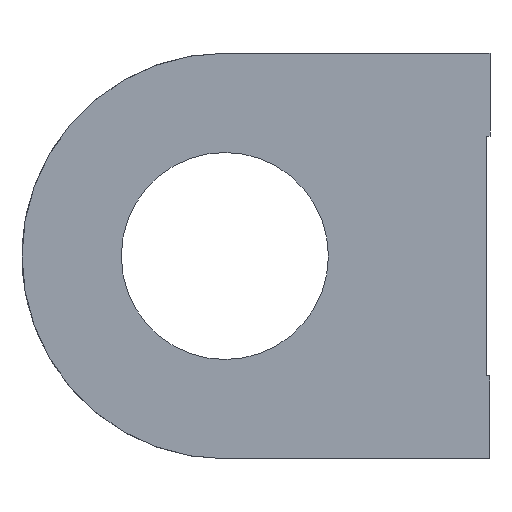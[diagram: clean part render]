
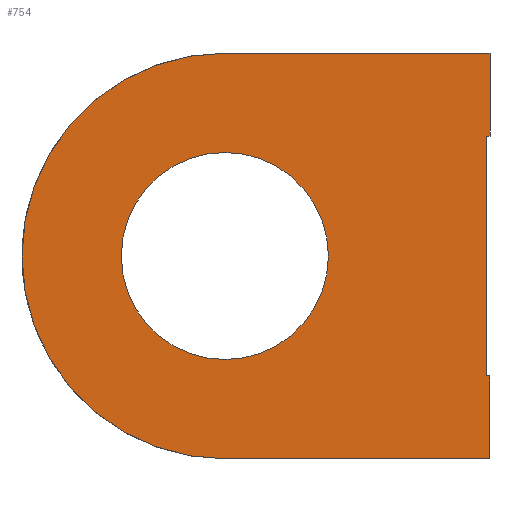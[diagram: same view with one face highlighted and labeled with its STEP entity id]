
A CAD part, front view. The second image highlights one B-rep face of the part: STEP entity #754.
In plain terms, the highlighted planar face has unit normal (0, -1, 0).
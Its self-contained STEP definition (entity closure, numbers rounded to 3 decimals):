
#45=FACE_BOUND('',#166,.T.);
#67=CIRCLE('',#811,32.131);
#68=CIRCLE('',#812,16.4);
#112=FACE_OUTER_BOUND('',#165,.T.);
#165=EDGE_LOOP('',(#547,#548,#549,#550,#551,#552,#553,#554));
#166=EDGE_LOOP('',(#555));
#227=LINE('',#1148,#285);
#233=LINE('',#1160,#291);
#235=LINE('',#1163,#293);
#240=LINE('',#1179,#298);
#241=LINE('',#1184,#299);
#244=LINE('',#1192,#302);
#245=LINE('',#1195,#303);
#285=VECTOR('',#899,0.5);
#291=VECTOR('',#907,0.5);
#293=VECTOR('',#911,38.);
#298=VECTOR('',#924,13.131);
#299=VECTOR('',#929,13.131);
#302=VECTOR('',#936,42.);
#303=VECTOR('',#939,42.);
#342=VERTEX_POINT('',#1144);
#344=VERTEX_POINT('',#1147);
#347=VERTEX_POINT('',#1154);
#349=VERTEX_POINT('',#1158);
#356=VERTEX_POINT('',#1177);
#358=VERTEX_POINT('',#1183);
#361=VERTEX_POINT('',#1191);
#362=VERTEX_POINT('',#1193);
#363=VERTEX_POINT('',#1196);
#418=EDGE_CURVE('',#344,#342,#227,.T.);
#424=EDGE_CURVE('',#347,#349,#233,.T.);
#426=EDGE_CURVE('',#349,#344,#235,.T.);
#434=EDGE_CURVE('',#342,#356,#240,.T.);
#436=EDGE_CURVE('',#358,#347,#241,.T.);
#440=EDGE_CURVE('',#356,#361,#244,.T.);
#441=EDGE_CURVE('',#361,#362,#67,.T.);
#442=EDGE_CURVE('',#362,#358,#245,.T.);
#443=EDGE_CURVE('',#363,#363,#68,.T.);
#547=ORIENTED_EDGE('',*,*,#424,.T.);
#548=ORIENTED_EDGE('',*,*,#426,.T.);
#549=ORIENTED_EDGE('',*,*,#418,.T.);
#550=ORIENTED_EDGE('',*,*,#434,.T.);
#551=ORIENTED_EDGE('',*,*,#440,.T.);
#552=ORIENTED_EDGE('',*,*,#441,.T.);
#553=ORIENTED_EDGE('',*,*,#442,.T.);
#554=ORIENTED_EDGE('',*,*,#436,.T.);
#555=ORIENTED_EDGE('',*,*,#443,.T.);
#731=PLANE('',#810);
#754=ADVANCED_FACE('',(#112,#45),#731,.F.);
#810=AXIS2_PLACEMENT_3D('',#1190,#934,#935);
#811=AXIS2_PLACEMENT_3D('',#1194,#937,#938);
#812=AXIS2_PLACEMENT_3D('',#1197,#940,#941);
#899=DIRECTION('',(1.,0.,0.));
#907=DIRECTION('',(-1.,0.,0.));
#911=DIRECTION('',(0.,0.,1.));
#924=DIRECTION('',(0.,0.,1.));
#929=DIRECTION('',(0.,0.,1.));
#934=DIRECTION('center_axis',(0.,1.,0.));
#935=DIRECTION('ref_axis',(0.,0.,1.));
#936=DIRECTION('',(-1.,0.,0.));
#937=DIRECTION('center_axis',(0.,-1.,0.));
#938=DIRECTION('ref_axis',(0.,0.,1.));
#939=DIRECTION('',(1.,0.,0.));
#940=DIRECTION('center_axis',(0.,1.,0.));
#941=DIRECTION('ref_axis',(-1.,0.,0.));
#1144=CARTESIAN_POINT('',(0.,-6.,19.));
#1147=CARTESIAN_POINT('',(-0.5,-6.,19.));
#1148=CARTESIAN_POINT('',(-14.494,-6.,19.));
#1154=CARTESIAN_POINT('',(0.,-6.,-19.));
#1158=CARTESIAN_POINT('',(-0.5,-6.,-19.));
#1160=CARTESIAN_POINT('',(-14.494,-6.,-19.));
#1163=CARTESIAN_POINT('',(-0.5,-6.,0.));
#1177=CARTESIAN_POINT('',(0.,-6.,32.131));
#1179=CARTESIAN_POINT('',(0.,-6.,-32.131));
#1183=CARTESIAN_POINT('',(0.,-6.,-32.131));
#1184=CARTESIAN_POINT('',(0.,-6.,-32.131));
#1190=CARTESIAN_POINT('Origin',(-28.988,-6.,0.));
#1191=CARTESIAN_POINT('',(-42.,-6.,32.131));
#1192=CARTESIAN_POINT('',(0.,-6.,32.131));
#1193=CARTESIAN_POINT('',(-42.,-6.,-32.131));
#1194=CARTESIAN_POINT('Origin',(-42.,-6.,0.));
#1195=CARTESIAN_POINT('',(-42.,-6.,-32.131));
#1196=CARTESIAN_POINT('',(-25.6,-6.,0.));
#1197=CARTESIAN_POINT('Origin',(-42.,-6.,0.));
